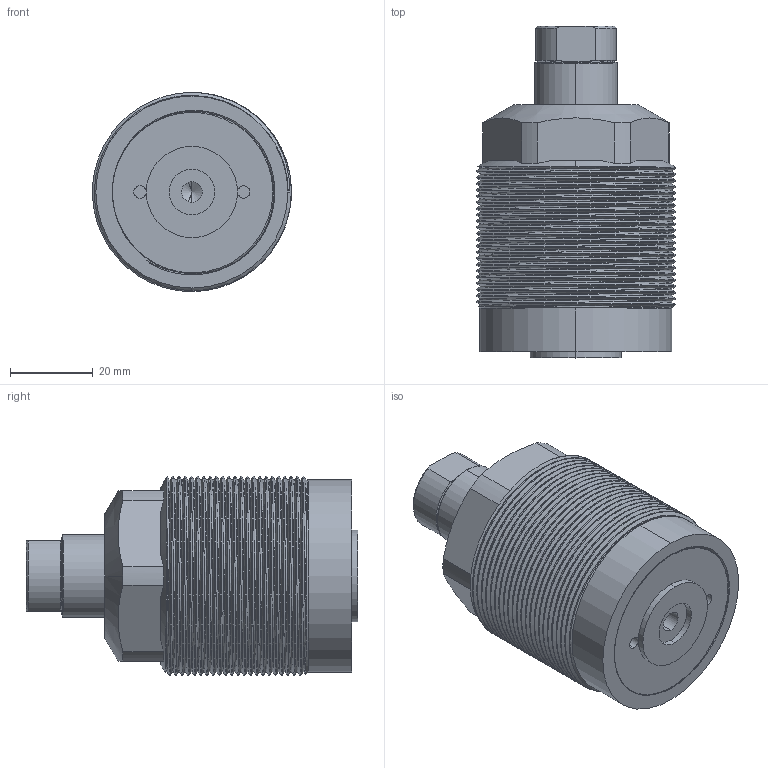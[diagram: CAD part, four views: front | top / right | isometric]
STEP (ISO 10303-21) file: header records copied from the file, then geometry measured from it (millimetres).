
FILE_DESCRIPTION (( 'STEP AP214' ), '1' );
FILE_NAME ('×°ÅäÌå1.STEP', '2022-07-01T08:15:13', ( 'PC' ), ( '' ), 'SwSTEP 2.0', 'SolidWorks 2016', '' );
FILE_SCHEMA (( 'AUTOMOTIVE_DESIGN' ));
Length unit declared in the file: millimetre
Products named in the file (4): CTC-PD048-10油压单动缸活塞杆; CTC-PD048-10蚐揤等雄詰掛极; 蚾饜极1; CTC-PD048-10蚐揤等雄詰綴裔
Assembly tree (3 placements, depth 2):
  蚾饜极1
    CTC-PD048-10蚐揤等雄詰掛极
    CTC-PD048-10油压单动缸活塞杆
    CTC-PD048-10蚐揤等雄詰綴裔
Bounding box: 47.96 x 80 x 48 mm (x, y, z)
Volume: 74409.8 mm3; surface area: 36435.1 mm2
Topology: 3 solids, 3 shells, 291 faces, 738 edges, 468 vertices
Faces by surface type: cylinder 151, torus 46, plane 46, cone 35, bspline 13
Entity records: 17368 total; most frequent: CARTESIAN_POINT 10685, ORIENTED_EDGE 1468, DIRECTION 1338, EDGE_CURVE 734, AXIS2_PLACEMENT_3D 565, VERTEX_POINT 468, EDGE_LOOP 318, FACE_OUTER_BOUND 291
